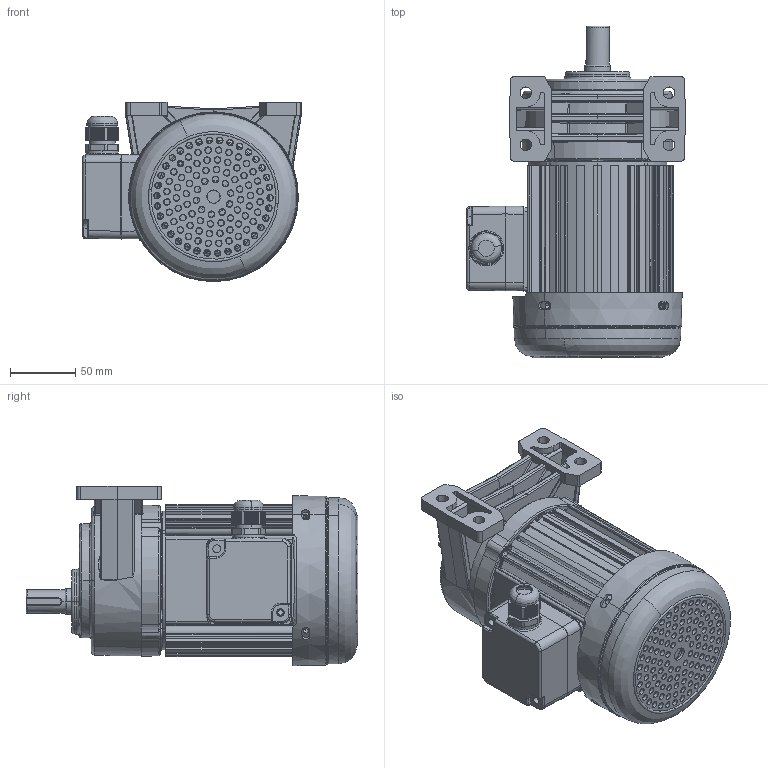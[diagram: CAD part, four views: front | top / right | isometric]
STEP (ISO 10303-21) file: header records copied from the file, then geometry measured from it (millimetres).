
FILE_DESCRIPTION (( 'STEP AP203' ), '1' );
FILE_NAME ('100W配1#卧式.STEP', '2019-06-19T03:51:58', ( '微软中国' ), ( '微软用户' ), 'SwSTEP 2.0', 'SolidWorks 2012', '' );
FILE_SCHEMA (( 'CONFIG_CONTROL_DESIGN' ));
Products named in the file (10): 100W饜1#拏宒; 100W 儂褲; 1#拏宒熬厒ん; 1xgx; 坶踡ん 蚾饜; 苤諉盄碟 裔; 苤諉盄碟釱; 釱菜; 100W瑞欶; 100W綴傷裔 2_25
Assembly tree (9 placements, depth 2):
  100W饜1#拏宒
    100W綴傷裔 2_25
    100W瑞欶
    釱菜
    苤諉盄碟釱
    苤諉盄碟 裔
    坶踡ん 蚾饜
    1xgx
    1#拏宒熬厒ん
    100W 儂褲
Bounding box: 168 x 255.06 x 137.75 mm (x, y, z)
Volume: 1300984.6 mm3; surface area: 417551.1 mm2
Topology: 7 solids, 11 shells, 2891 faces, 7499 edges, 4653 vertices
Faces by surface type: bspline 870, cylinder 838, plane 718, torus 219, cone 156, sphere 90
Entity records: 135249 total; most frequent: CARTESIAN_POINT 70348, ORIENTED_EDGE 14820, DIRECTION 11134, EDGE_CURVE 7440, VERTEX_POINT 4653, AXIS2_PLACEMENT_3D 4367, EDGE_LOOP 3280, FACE_OUTER_BOUND 2891
